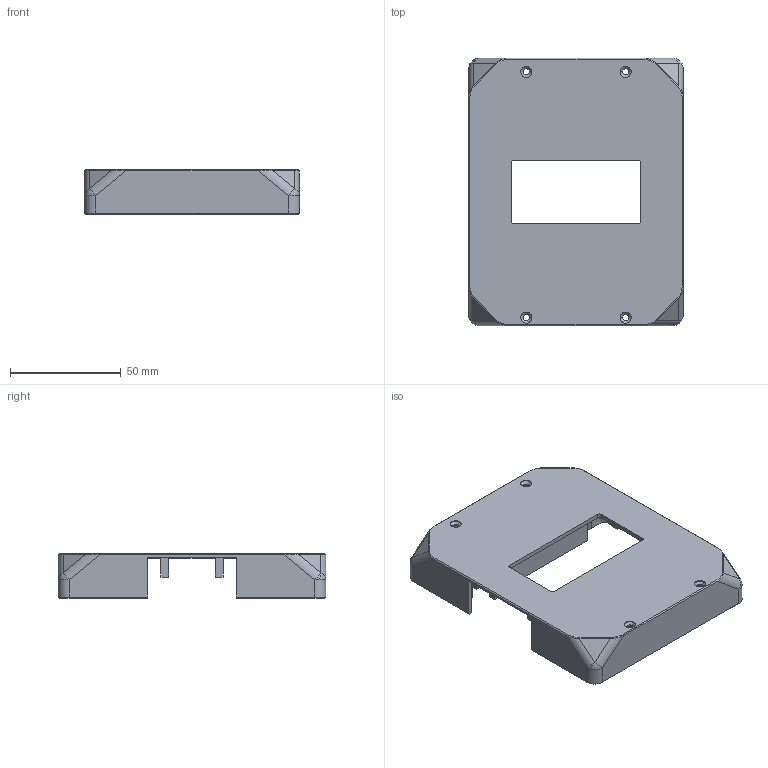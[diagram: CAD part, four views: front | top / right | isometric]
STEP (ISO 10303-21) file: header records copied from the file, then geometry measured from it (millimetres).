
FILE_DESCRIPTION (( 'STEP AP203' ), '1' );
FILE_NAME ('干扰枪-电池盒4-.STEP', '2026-09-24T09:15:33', ( '' ), ( '' ), 'SwSTEP 2.0', 'SolidWorks 2016', '' );
FILE_SCHEMA (( 'CONFIG_CONTROL_DESIGN' ));
Length unit declared in the file: millimetre
Products named in the file (1): 干扰枪-电池盒4-
Bounding box: 97 x 120.9 x 20 mm (x, y, z)
Volume: 39680.4 mm3; surface area: 40410.9 mm2
Topology: 1 solids, 1 shells, 299 faces, 795 edges, 492 vertices
Faces by surface type: plane 138, cylinder 103, cone 44, bspline 8, sphere 6
Entity records: 10004 total; most frequent: CARTESIAN_POINT 2483, ORIENTED_EDGE 1558, DIRECTION 1557, EDGE_CURVE 779, LINE 521, VECTOR 521, AXIS2_PLACEMENT_3D 518, VERTEX_POINT 492
